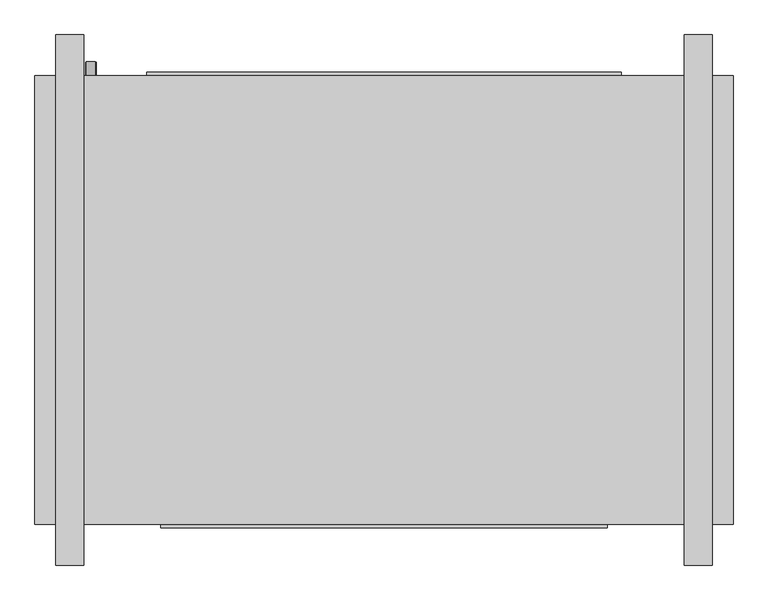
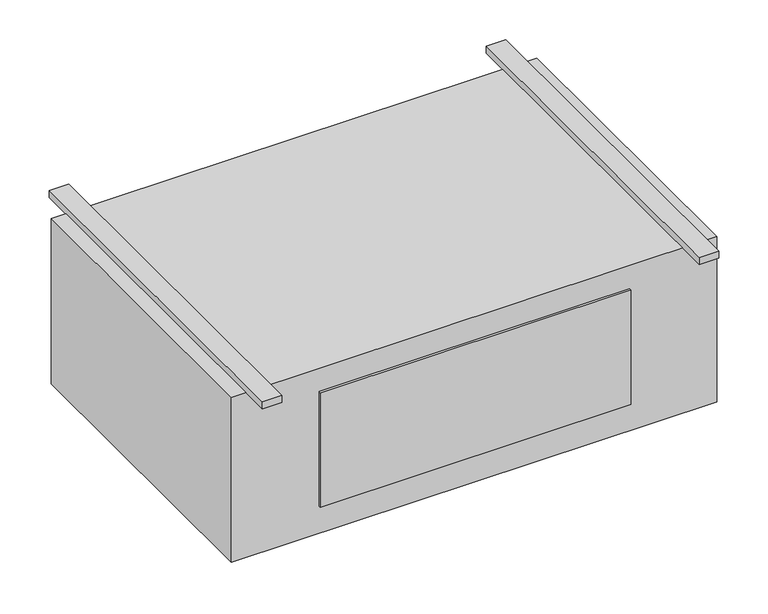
"""IFC4 building model written with IfcOpenShell, lengths in millimetres: proxy geometry, Exposed_High_Capacity_Horizontal_Cabinet_Fan_Coil_Unit_-_42DFA_-_CARRIER_-_2-Pipe_Cool-EHeat_LH_2022 : Size 14 - 277v/60Hz/1Ph - 6 Row 10.0kW."""

from ifc_helpers import new_model, si_unit, point, frame, frame_2d, origin, origin_with_axes, place, context, project, spatial, polyline, circle_curve, trimmed, segment, composite_curve, outline, extrude, source, transform, mapped, element, save


def mechanical_equipment_00bbcb23(model_context):
    return source(origin(), model_context, "Body", "SweptSolid", [
        extrude(outline(composite_curve([segment(trimmed(circle_curve(frame_2d((-406.4, -381.0)), 9.525), [point((-406.4, -390.525))], [point((-406.4, -371.475))], False, "CARTESIAN"), True, "CONTINUOUS"), segment(trimmed(circle_curve(frame_2d((-406.4, -381.0)), 9.525), [point((-406.4, -371.475))], [point((-406.4, -390.525))], False, "CARTESIAN"), True, "CONTINUOUS")], self_intersect=False)), frame((0.0, 169.8625, 0.0), z_axis=(0.0, 1.0, 0.0), x_axis=(0.0, 0.0, 1.0)), (0.0, 0.0, 1.0), 25.4),
        extrude(outline(composite_curve([segment(trimmed(circle_curve(frame_2d((-330.2, -381.0)), 7.9375), [point((-330.2, -388.9375))], [point((-330.2, -373.0625))], False, "CARTESIAN"), True, "CONTINUOUS"), segment(trimmed(circle_curve(frame_2d((-330.2, -381.0)), 7.9375), [point((-330.2, -373.0625))], [point((-330.2, -388.9375))], False, "CARTESIAN"), True, "CONTINUOUS")], self_intersect=False)), frame((0.0, 169.8625, 0.0), z_axis=(0.0, 1.0, 0.0), x_axis=(0.0, 0.0, 1.0)), (0.0, 0.0, 1.0), 25.4),
        extrude(outline(composite_curve([segment(trimmed(circle_curve(frame_2d((-254.0, -381.0)), 7.9375), [point((-254.0, -388.9375))], [point((-254.0, -373.0625))], False, "CARTESIAN"), True, "CONTINUOUS"), segment(trimmed(circle_curve(frame_2d((-254.0, -381.0)), 7.9375), [point((-254.0, -373.0625))], [point((-254.0, -388.9375))], False, "CARTESIAN"), True, "CONTINUOUS")], self_intersect=False)), frame((0.0, 169.8625, 0.0), z_axis=(0.0, 1.0, 0.0), x_axis=(0.0, 0.0, 1.0)), (0.0, 0.0, 1.0), 25.4),
        extrude(outline(polyline([(787.4, 169.8625), (787.4, -646.1125), (-482.6, -646.1125), (-482.6, 169.8625), (787.4, 169.8625)])), frame((0.0, 0.0, -457.2), z_axis=(0.0, 0.0, 1.0), x_axis=(1.0, 0.0, 0.0)), (0.0, 0.0, 1.0), 457.2),
        extrude(outline(polyline([(-279.4, 176.2125), (584.2, 176.2125), (584.2, 169.8625), (-279.4, 169.8625), (-279.4, 176.2125)])), frame((0.0, 0.0, -381.0), z_axis=(0.0, 0.0, 1.0), x_axis=(1.0, 0.0, 0.0)), (0.0, 0.0, 1.0), 355.6),
        extrude(outline(polyline([(-393.7, 244.475), (-393.7, -720.725), (-444.5, -720.725), (-444.5, 244.475), (-393.7, 244.475)])), origin_with_axes(), (0.0, 0.0, 1.0), 19.05),
        extrude(outline(polyline([(749.3, 244.475), (749.3, -720.725), (698.5, -720.725), (698.5, 244.475), (749.3, 244.475)])), origin_with_axes(), (0.0, 0.0, 1.0), 19.05),
        extrude(outline(polyline([(558.8, -652.4625), (-254.0, -652.4625), (-254.0, -646.1125), (558.8, -646.1125), (558.8, -652.4625)])), frame((0.0, 0.0, -381.0), z_axis=(0.0, 0.0, 1.0), x_axis=(1.0, 0.0, 0.0)), (0.0, 0.0, 1.0), 317.5),
    ])


if __name__ == "__main__":
    model = new_model("IFC4")
    model_context = context("Model", 3, world=origin())
    ifc_project = project(units=[si_unit("LENGTHUNIT", "METRE", prefix="MILLI")], contexts=[model_context])
    site = spatial("IfcSite", under=ifc_project)
    building = spatial("IfcBuilding", under=site)
    placement = place(None, origin())
    mechanical_equipment_shape = mechanical_equipment_00bbcb23(model_context)
    element("IfcBuildingElementProxy", 1, Name="Exposed_High_Capacity_Horizontal_Cabinet_Fan_Coil_Unit_-_42DFA_-_CARRIER_-_2-Pipe_Cool-EHeat_LH_2022 : Size 14 - 277v/60Hz/1Ph - 6 Row 10.0kW", ObjectType="Exposed_High_Capacity_Horizontal_Cabinet_Fan_Coil_Unit_-_42DFA_-_CARRIER_-_2-Pipe_Cool-EHeat_LH_2022 : Size 14 - 277v/60Hz/1Ph - 6 Row 10.0kW", at=placement, inside=building, context=model_context, shape_type="MappedRepresentation", body=[
        mapped(mechanical_equipment_shape, transform((0.0, 0.0, 0.0), x_axis=(1.0, 0.0, 0.0), y_axis=(0.0, 1.0, 0.0), z_axis=(0.0, 0.0, 1.0))),
    ])
    save(model, "model.ifc")
